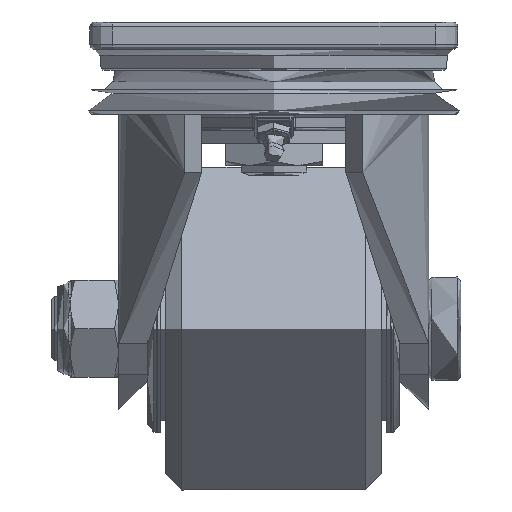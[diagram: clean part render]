
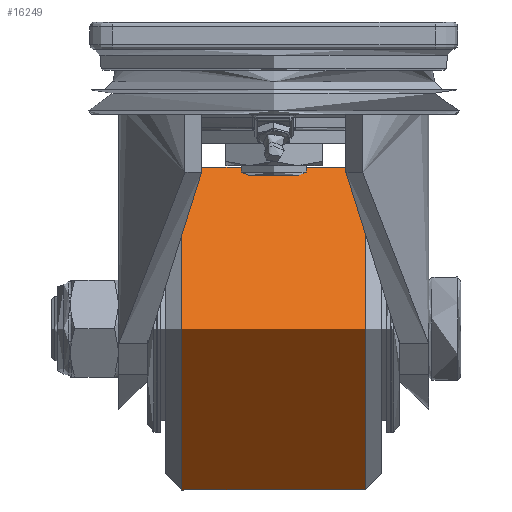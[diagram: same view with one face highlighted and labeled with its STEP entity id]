
A CAD part, left-side view. The second image highlights one B-rep face of the part: STEP entity #16249.
In plain terms, the highlighted cylindrical face has radius 50 mm (diameter 100 mm), a full revolution.
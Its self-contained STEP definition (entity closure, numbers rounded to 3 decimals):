
#4229=CYLINDRICAL_SURFACE('',#17271,50.);
#4335=FACE_BOUND('',#5472,.T.);
#4478=FACE_OUTER_BOUND('',#5471,.T.);
#5471=EDGE_LOOP('',(#11150));
#5472=EDGE_LOOP('',(#11151));
#6605=CIRCLE('',#17270,50.);
#6606=CIRCLE('',#17272,50.);
#7000=VERTEX_POINT('',#21549);
#7001=VERTEX_POINT('',#21552);
#8634=EDGE_CURVE('',#7000,#7000,#6605,.T.);
#8635=EDGE_CURVE('',#7001,#7001,#6606,.T.);
#11150=ORIENTED_EDGE('',*,*,#8634,.T.);
#11151=ORIENTED_EDGE('',*,*,#8635,.F.);
#16249=ADVANCED_FACE('',(#4478,#4335),#4229,.T.);
#17270=AXIS2_PLACEMENT_3D('',#21550,#18276,#18277);
#17271=AXIS2_PLACEMENT_3D('',#21551,#18278,#18279);
#17272=AXIS2_PLACEMENT_3D('',#21553,#18280,#18281);
#18276=DIRECTION('center_axis',(0.,-1.,0.));
#18277=DIRECTION('ref_axis',(1.,0.,0.));
#18278=DIRECTION('center_axis',(0.,-1.,0.));
#18279=DIRECTION('ref_axis',(0.,0.,
1.));
#18280=DIRECTION('center_axis',(0.,-1.,0.));
#18281=DIRECTION('ref_axis',(1.,0.,0.));
#21549=CARTESIAN_POINT('',(37.134,28.5,-15.));
#21550=CARTESIAN_POINT('Origin',(37.134,28.5,-65.));
#21551=CARTESIAN_POINT('Origin',(37.134,0.,-65.));
#21552=CARTESIAN_POINT('',(37.134,-28.5,-15.));
#21553=CARTESIAN_POINT('Origin',(37.134,-28.5,-65.));
